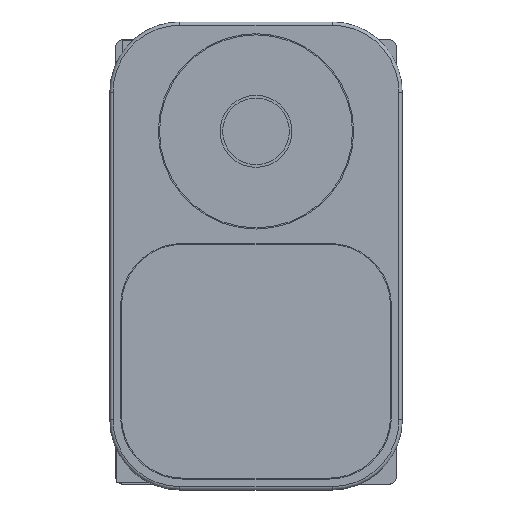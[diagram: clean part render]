
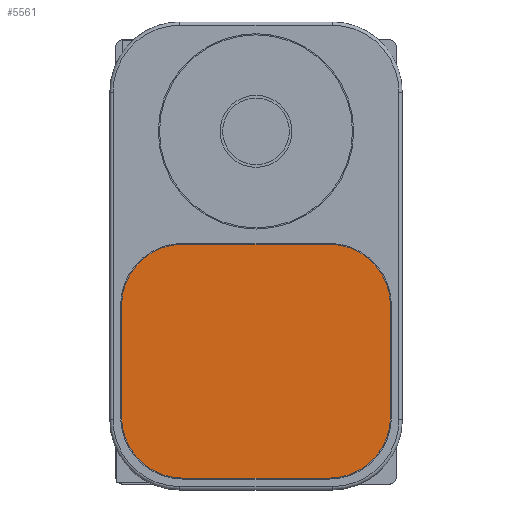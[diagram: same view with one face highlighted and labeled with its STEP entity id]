
A CAD part, top view. The second image highlights one B-rep face of the part: STEP entity #5561.
In plain terms, the highlighted planar face has unit normal (0, 0, 1).
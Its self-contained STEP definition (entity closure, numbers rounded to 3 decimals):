
#5312 = VERTEX_POINT('',#5313);
#5313 = CARTESIAN_POINT('',(12.5,2.,14.2));
#5329 = VERTEX_POINT('',#5330);
#5330 = CARTESIAN_POINT('',(2.,12.5,14.2));
#5336 = EDGE_CURVE('',#5329,#5312,#5337,.T.);
#5337 = CIRCLE('',#5338,10.5);
#5338 = AXIS2_PLACEMENT_3D('',#5339,#5340,#5341);
#5339 = CARTESIAN_POINT('',(12.5,12.5,14.2));
#5340 = DIRECTION('',(0.,0.,1.));
#5341 = DIRECTION('',(1.,0.,0.));
#5360 = EDGE_CURVE('',#5312,#5361,#5363,.T.);
#5361 = VERTEX_POINT('',#5362);
#5362 = CARTESIAN_POINT('',(37.5,2.,14.2));
#5363 = LINE('',#5364,#5365);
#5364 = CARTESIAN_POINT('',(12.5,2.,14.2));
#5365 = VECTOR('',#5366,1.);
#5366 = DIRECTION('',(1.,0.,0.));
#5392 = VERTEX_POINT('',#5393);
#5393 = CARTESIAN_POINT('',(2.,31.5,14.2));
#5399 = EDGE_CURVE('',#5329,#5392,#5400,.T.);
#5400 = LINE('',#5401,#5402);
#5401 = CARTESIAN_POINT('',(2.,12.5,14.2));
#5402 = VECTOR('',#5403,1.);
#5403 = DIRECTION('',(0.,1.,0.));
#5416 = VERTEX_POINT('',#5417);
#5417 = CARTESIAN_POINT('',(48.,12.5,14.2));
#5431 = EDGE_CURVE('',#5361,#5416,#5432,.T.);
#5432 = CIRCLE('',#5433,10.5);
#5433 = AXIS2_PLACEMENT_3D('',#5434,#5435,#5436);
#5434 = CARTESIAN_POINT('',(37.5,12.5,14.2));
#5435 = DIRECTION('',(0.,0.,1.));
#5436 = DIRECTION('',(1.,0.,0.));
#5456 = VERTEX_POINT('',#5457);
#5457 = CARTESIAN_POINT('',(12.5,42.,14.2));
#5463 = EDGE_CURVE('',#5456,#5392,#5464,.T.);
#5464 = CIRCLE('',#5465,10.5);
#5465 = AXIS2_PLACEMENT_3D('',#5466,#5467,#5468);
#5466 = CARTESIAN_POINT('',(12.5,31.5,14.2));
#5467 = DIRECTION('',(0.,0.,1.));
#5468 = DIRECTION('',(1.,0.,0.));
#5488 = EDGE_CURVE('',#5456,#5489,#5491,.T.);
#5489 = VERTEX_POINT('',#5490);
#5490 = CARTESIAN_POINT('',(37.5,42.,14.2));
#5491 = LINE('',#5492,#5493);
#5492 = CARTESIAN_POINT('',(12.5,42.,14.2));
#5493 = VECTOR('',#5494,1.);
#5494 = DIRECTION('',(1.,0.,0.));
#5520 = VERTEX_POINT('',#5521);
#5521 = CARTESIAN_POINT('',(48.,31.5,14.2));
#5527 = EDGE_CURVE('',#5416,#5520,#5528,.T.);
#5528 = LINE('',#5529,#5530);
#5529 = CARTESIAN_POINT('',(48.,12.5,14.2));
#5530 = VECTOR('',#5531,1.);
#5531 = DIRECTION('',(0.,1.,0.));
#5549 = EDGE_CURVE('',#5520,#5489,#5550,.T.);
#5550 = CIRCLE('',#5551,10.5);
#5551 = AXIS2_PLACEMENT_3D('',#5552,#5553,#5554);
#5552 = CARTESIAN_POINT('',(37.5,31.5,14.2));
#5553 = DIRECTION('',(0.,0.,1.));
#5554 = DIRECTION('',(1.,0.,0.));
#5561 = ADVANCED_FACE('',(#5562),#5572,.T.);
#5562 = FACE_BOUND('',#5563,.T.);
#5563 = EDGE_LOOP('',(#5564,#5565,#5566,#5567,#5568,#5569,#5570,#5571));
#5564 = ORIENTED_EDGE('',*,*,#5336,.T.);
#5565 = ORIENTED_EDGE('',*,*,#5360,.T.);
#5566 = ORIENTED_EDGE('',*,*,#5431,.T.);
#5567 = ORIENTED_EDGE('',*,*,#5527,.T.);
#5568 = ORIENTED_EDGE('',*,*,#5549,.T.);
#5569 = ORIENTED_EDGE('',*,*,#5488,.F.);
#5570 = ORIENTED_EDGE('',*,*,#5463,.T.);
#5571 = ORIENTED_EDGE('',*,*,#5399,.F.);
#5572 = PLANE('',#5573);
#5573 = AXIS2_PLACEMENT_3D('',#5574,#5575,#5576);
#5574 = CARTESIAN_POINT('',(25.,22.,14.2));
#5575 = DIRECTION('',(0.,0.,1.));
#5576 = DIRECTION('',(1.,0.,0.));
